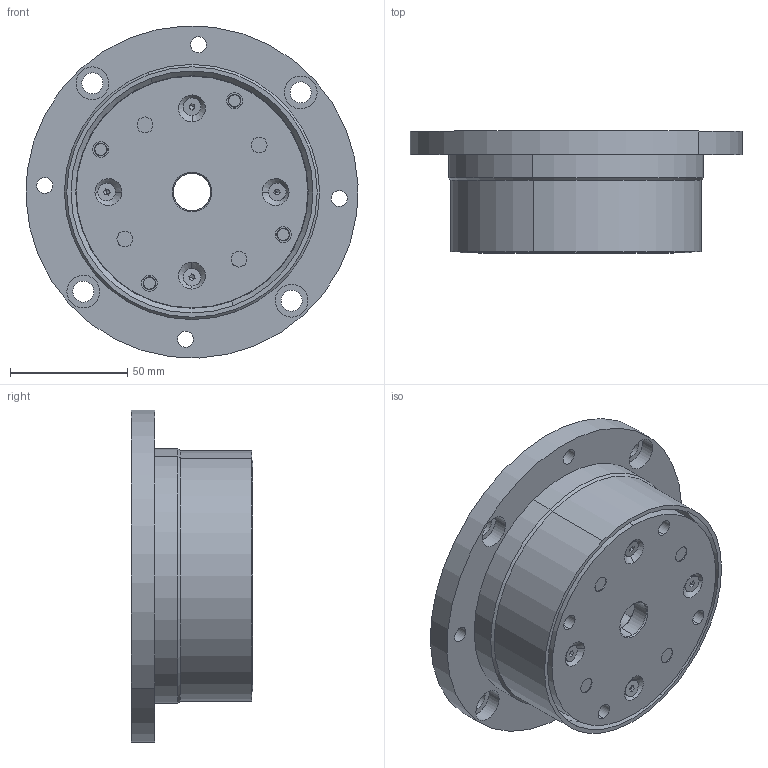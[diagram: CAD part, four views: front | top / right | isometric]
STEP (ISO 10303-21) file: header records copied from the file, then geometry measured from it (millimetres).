
FILE_DESCRIPTION (( 'STEP AP203' ), '1' );
FILE_NAME ('FB-130-99.STEP', '2024-08-08T14:10:08', ( '' ), ( '' ), 'SwSTEP 2.0', 'SolidWorks 2020', '' );
FILE_SCHEMA (( 'CONFIG_CONTROL_DESIGN' ));
Length unit declared in the file: millimetre
Products named in the file (1): FB-130-99
Bounding box: 141.86 x 52 x 141.86 mm (x, y, z)
Surface area: 71613.7 mm2 (no closed solid volume)
Topology: 0 solids, 39 shells, 261 faces, 760 edges, 506 vertices
Faces by surface type: plane 103, cylinder 96, cone 46, torus 16
Entity records: 8609 total; most frequent: DIRECTION 1594, CARTESIAN_POINT 1552, ORIENTED_EDGE 1194, EDGE_CURVE 736, AXIS2_PLACEMENT_3D 612, VERTEX_POINT 506, VECTOR 370, LINE 370
